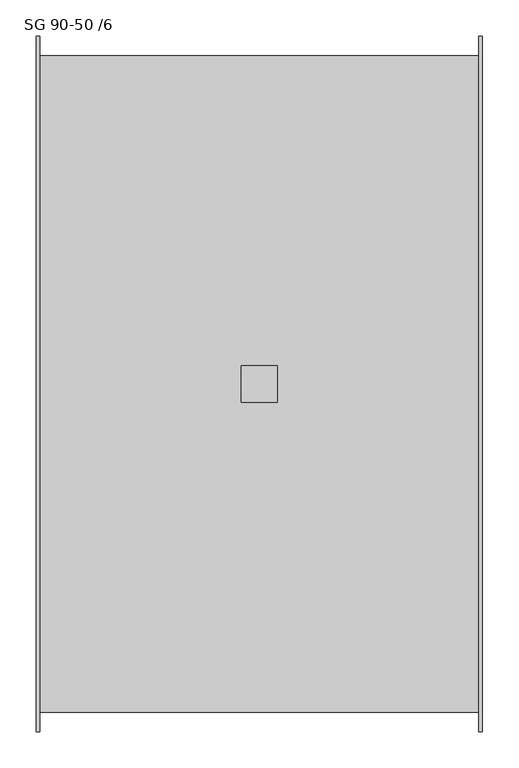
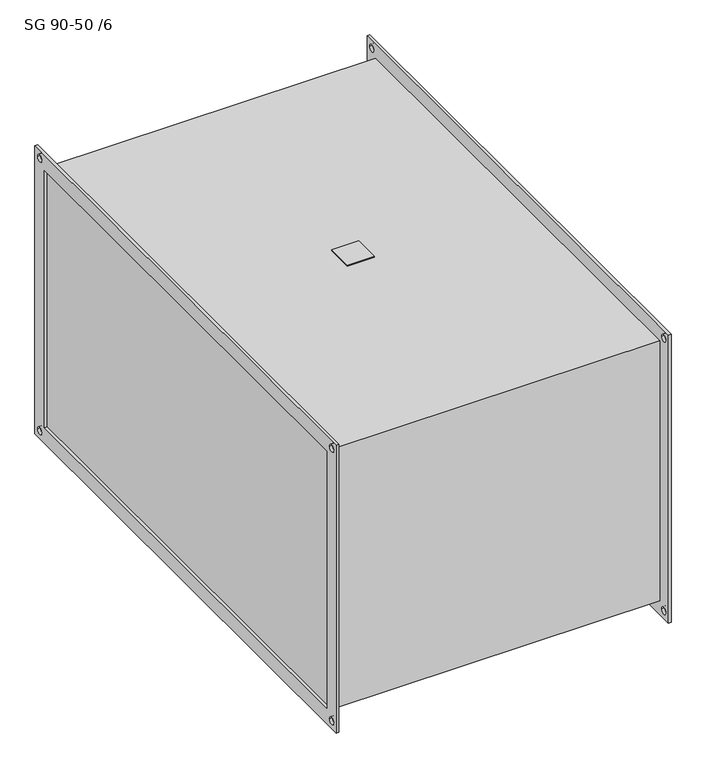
"""IFC4 building model written with IfcOpenShell, lengths in millimetres: damper geometry, KORF_Шумоглушитель_SG : SG 90-50 /6."""

from ifc_helpers import new_model, si_unit, point, frame, frame_2d, origin, place, context, project, spatial, polyline, circle_curve, trimmed, segment, composite_curve, outline, extrude, source, transform, mapped, element, save


def sg_90_50_6_1e20c007(model_context):
    return source(origin(), model_context, "Body", "SweptSolid", [
        extrude(outline(polyline([(283.0, -25.0), (283.0, 25.0), (333.0, 25.0), (333.0, -25.0), (283.0, -25.0)])), frame((0.0, 0.0, 253.0), z_axis=(0.0, 0.0, 1.0), x_axis=(1.0, 0.0, 0.0)), (0.0, 0.0, 1.0), 2.0),
        extrude(outline(polyline([(-480.0, 280.0), (480.0, 280.0), (480.0, -280.0), (-480.0, -280.0), (-480.0, 280.0)]), holes=[polyline([(-450.0, 250.0), (-450.0, -250.0), (450.0, -250.0), (450.0, 250.0), (-450.0, 250.0)]), composite_curve([segment(trimmed(circle_curve(frame_2d((465.0, 265.0)), 6.5), [point((458.5, 265.0))], [point((471.5, 265.0))], True, "CARTESIAN"), True, "CONTINUOUS"), segment(trimmed(circle_curve(frame_2d((465.0, 265.0)), 6.5), [point((471.5, 265.0))], [point((458.5, 265.0))], True, "CARTESIAN"), True, "CONTINUOUS")], self_intersect=False), composite_curve([segment(trimmed(circle_curve(frame_2d((-465.0, 265.0)), 6.5), [point((-471.5, 265.0))], [point((-458.5, 265.0))], True, "CARTESIAN"), True, "CONTINUOUS"), segment(trimmed(circle_curve(frame_2d((-465.0, 265.0)), 6.5), [point((-458.5, 265.0))], [point((-471.5, 265.0))], True, "CARTESIAN"), True, "CONTINUOUS")], self_intersect=False), composite_curve([segment(trimmed(circle_curve(frame_2d((-465.0, -265.0)), 6.5), [point((-471.5, -265.0))], [point((-458.5, -265.0))], True, "CARTESIAN"), True, "CONTINUOUS"), segment(trimmed(circle_curve(frame_2d((-465.0, -265.0)), 6.5), [point((-458.5, -265.0))], [point((-471.5, -265.0))], True, "CARTESIAN"), True, "CONTINUOUS")], self_intersect=False), composite_curve([segment(trimmed(circle_curve(frame_2d((465.0, -265.0)), 6.5), [point((458.5, -265.0))], [point((471.5, -265.0))], True, "CARTESIAN"), True, "CONTINUOUS"), segment(trimmed(circle_curve(frame_2d((465.0, -265.0)), 6.5), [point((471.5, -265.0))], [point((458.5, -265.0))], True, "CARTESIAN"), True, "CONTINUOUS")], self_intersect=False)]), frame((611.0, 0.0, 0.0), z_axis=(1.0, 0.0, 0.0), x_axis=(0.0, 1.0, 0.0)), (0.0, 0.0, 1.0), 5.0),
        extrude(outline(polyline([(-480.0, 280.0), (480.0, 280.0), (480.0, -280.0), (-480.0, -280.0), (-480.0, 280.0)]), holes=[polyline([(-450.0, 250.0), (-450.0, -250.0), (450.0, -250.0), (450.0, 250.0), (-450.0, 250.0)]), composite_curve([segment(trimmed(circle_curve(frame_2d((465.0, 265.0)), 6.5), [point((458.5, 265.0))], [point((471.5, 265.0))], True, "CARTESIAN"), True, "CONTINUOUS"), segment(trimmed(circle_curve(frame_2d((465.0, 265.0)), 6.5), [point((471.5, 265.0))], [point((458.5, 265.0))], True, "CARTESIAN"), True, "CONTINUOUS")], self_intersect=False), composite_curve([segment(trimmed(circle_curve(frame_2d((-465.0, 265.0)), 6.5), [point((-471.5, 265.0))], [point((-458.5, 265.0))], True, "CARTESIAN"), True, "CONTINUOUS"), segment(trimmed(circle_curve(frame_2d((-465.0, 265.0)), 6.5), [point((-458.5, 265.0))], [point((-471.5, 265.0))], True, "CARTESIAN"), True, "CONTINUOUS")], self_intersect=False), composite_curve([segment(trimmed(circle_curve(frame_2d((-465.0, -265.0)), 6.5), [point((-471.5, -265.0))], [point((-458.5, -265.0))], True, "CARTESIAN"), True, "CONTINUOUS"), segment(trimmed(circle_curve(frame_2d((-465.0, -265.0)), 6.5), [point((-458.5, -265.0))], [point((-471.5, -265.0))], True, "CARTESIAN"), True, "CONTINUOUS")], self_intersect=False), composite_curve([segment(trimmed(circle_curve(frame_2d((465.0, -265.0)), 6.5), [point((458.5, -265.0))], [point((471.5, -265.0))], True, "CARTESIAN"), True, "CONTINUOUS"), segment(trimmed(circle_curve(frame_2d((465.0, -265.0)), 6.5), [point((471.5, -265.0))], [point((458.5, -265.0))], True, "CARTESIAN"), True, "CONTINUOUS")], self_intersect=False)]), frame((0.0, 0.0, 0.0), z_axis=(1.0, 0.0, 0.0), x_axis=(0.0, 1.0, 0.0)), (0.0, 0.0, 1.0), 5.0),
        extrude(outline(polyline([(611.0, 453.0), (611.0, -453.0), (5.0, -453.0), (5.0, 453.0), (611.0, 453.0)])), frame((0.0, 0.0, -253.0), z_axis=(0.0, 0.0, 1.0), x_axis=(1.0, 0.0, 0.0)), (0.0, 0.0, 1.0), 506.0),
    ])


if __name__ == "__main__":
    model = new_model("IFC4")
    model_context = context("Model", 3, world=origin())
    ifc_project = project(units=[si_unit("LENGTHUNIT", "METRE", prefix="MILLI")], contexts=[model_context])
    site = spatial("IfcSite", under=ifc_project)
    building = spatial("IfcBuilding", under=site)
    placement = place(None, origin())
    sg_90_50_6_shape = sg_90_50_6_1e20c007(model_context)
    element("IfcDamper", 1, ObjectType="KORF_Шумоглушитель_SG : SG 90-50 /6", at=placement, inside=building, context=model_context, shape_type="MappedRepresentation", body=[
        mapped(sg_90_50_6_shape, transform((0.0, 0.0, 0.0), x_axis=(1.0, 0.0, 0.0), y_axis=(0.0, 1.0, 0.0), z_axis=(0.0, 0.0, 1.0))),
    ])
    save(model, "model.ifc")
